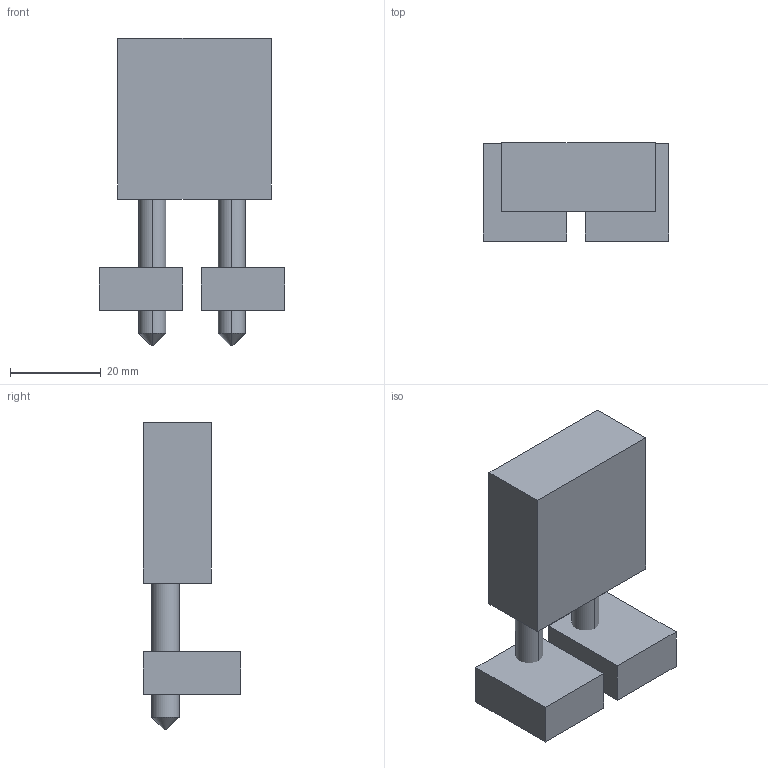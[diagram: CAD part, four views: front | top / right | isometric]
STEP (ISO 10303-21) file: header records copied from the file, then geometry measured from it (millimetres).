
FILE_DESCRIPTION(/* description */ (''),/* implementation_level */ '2;1');
FILE_NAME(/* name */ 'EXTRUS~3',/* time_stamp */ '2019-04-01T21:30:05-03:00',/* author */ (''),/* organization */ (''),/* preprocessor_version */ 'ST-DEVELOPER v16.5',/* originating_system */ '',/* authorisation */ '');
FILE_SCHEMA (('AUTOMOTIVE_DESIGN'));
Length unit declared in the file: millimetre
Products named in the file (1): Document
Bounding box: 40.72 x 21.56 x 67.59 mm (x, y, z)
Volume: 27334 mm3; surface area: 9009.1 mm2
Topology: 5 solids, 5 shells, 30 faces, 56 edges, 36 vertices
Faces by surface type: plane 22, bspline 8
Entity records: 829 total; most frequent: CARTESIAN_POINT 384, ORIENTED_EDGE 112, EDGE_CURVE 56, B_SPLINE_CURVE_WITH_KNOTS 44, VERTEX_POINT 36, ADVANCED_FACE 30, FACE_OUTER_BOUND 30, EDGE_LOOP 30
